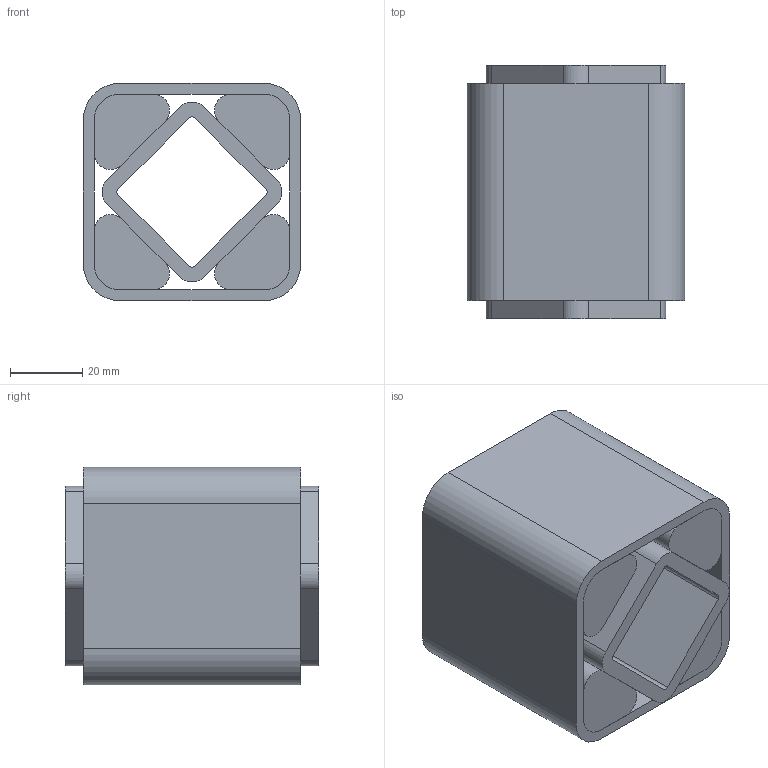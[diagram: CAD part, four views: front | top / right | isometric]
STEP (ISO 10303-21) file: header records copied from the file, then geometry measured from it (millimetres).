
FILE_DESCRIPTION((''),'2;1');
FILE_NAME('\\rostaofc\data\uw\save\daten_f\Normprogramm 3D\Gummifederelemente\DR-S38x60_01021013.stp','2004-09-28T14:46:50',('uw'),(''),'Autodesk Inventor 8','Autodesk Inventor 8','');
FILE_SCHEMA(('AUTOMOTIVE_DESIGN { 1 0 10303 214 1 1 1 1 }'));
Length unit declared in the file: millimetre
Products named in the file (4): ROSTA-Gummifederelement DR-S38x60 (Normelement); 4_4_3729-001; 4_4_3729-002; 4_4_3729-003
Assembly tree (6 placements, depth 2):
  ROSTA-Gummifederelement DR-S38x60 (Normelement)
    4_4_3729-001
    4_4_3729-002
    4_4_3729-003  x4
Bounding box: 60 x 70 x 60 mm (x, y, z)
Volume: 148836.4 mm3; surface area: 64884 mm2
Topology: 6 solids, 6 shells, 68 faces, 168 edges, 112 vertices
Faces by surface type: plane 40, cylinder 28
Entity records: 1491 total; most frequent: DIRECTION 260, CARTESIAN_POINT 244, ORIENTED_EDGE 228, EDGE_CURVE 114, AXIS2_PLACEMENT_3D 92, VERTEX_POINT 76, VECTOR 76, LINE 76
